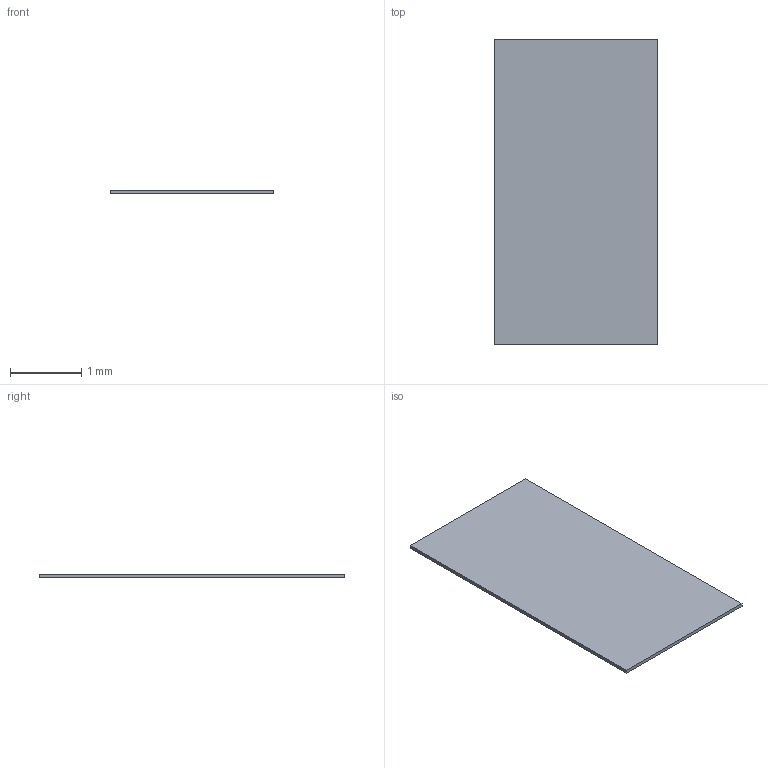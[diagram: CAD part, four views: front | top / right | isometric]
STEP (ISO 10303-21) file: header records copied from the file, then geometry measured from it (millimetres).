
FILE_DESCRIPTION(/* description */ ('STEP AP242 Edition 2','CAx-IF Rec.Pracs.---Representation and Presentation of Product Manufacturing Information (PMI)---4.0---2014-10-13','CAx-IF Rec.Pracs.---3D Tessellated Geometry---0.4---2014-09-14','2;1','CAx-IF Rec.Pracs.---User Defined Attributes---1.5---2016-08-15'),/* implementation_level */ '2;1');
FILE_NAME(/* name */ 'Drone Layout - Surface 371',/* time_stamp */ '2026-10-04T22:22:58Z',/* author */ (''),/* organization */ (''),/* preprocessor_version */ 'ST-DEVELOPER v20',/* originating_system */ 'ONSHAPE BY PTC INC, 1.221',/* authorisation */ ' ');
FILE_SCHEMA (('AP242_MANAGED_MODEL_BASED_3D_ENGINEERING_MIM_LF { 1 0 10303 442 3 1 4 }'));
Length unit declared in the file: metre
Products named in the file (1): pcb:1__Body1
Bounding box: 2.3 x 4.3 x 0.05 mm (x, y, z)
Volume: 0.5 mm3; surface area: 20.4 mm2
Topology: 1 solids, 1 shells, 6 faces, 12 edges, 8 vertices
Faces by surface type: plane 6
Entity records: 169 total; most frequent: CARTESIAN_POINT 27, DIRECTION 26, ORIENTED_EDGE 24, EDGE_CURVE 12, LINE 12, VECTOR 12, VERTEX_POINT 8, AXIS2_PLACEMENT_3D 7
